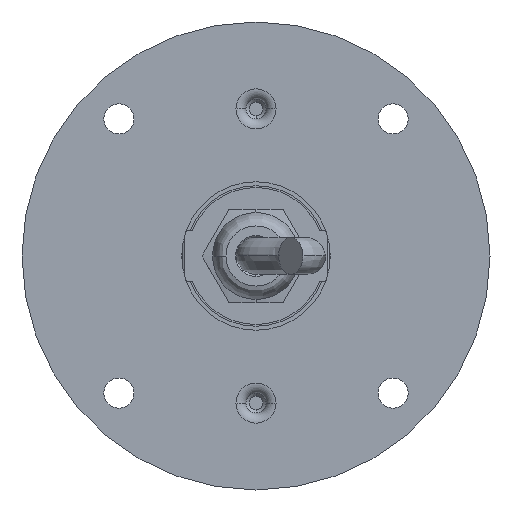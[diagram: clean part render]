
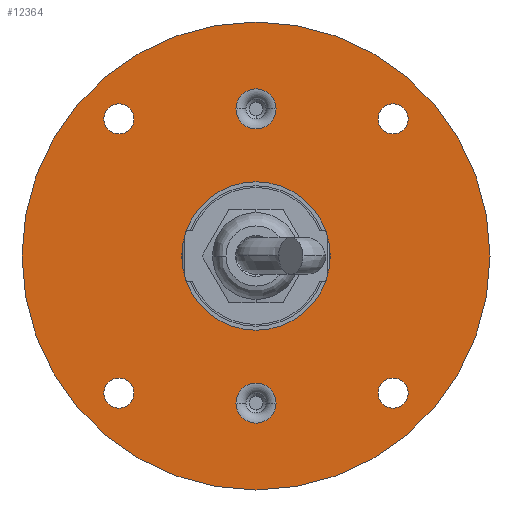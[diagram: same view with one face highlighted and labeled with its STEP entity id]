
A CAD part, front view. The second image highlights one B-rep face of the part: STEP entity #12364.
In plain terms, the highlighted planar face has unit normal (0, -1, 0) as drawn and (0, 0, -1) by its records, which use the part's own axes.
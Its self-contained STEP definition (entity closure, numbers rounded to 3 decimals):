
#11839=CARTESIAN_POINT('',(0.,0.,0.));
#11840=DIRECTION('',(0.,0.,-1.));
#11841=DIRECTION('',(1.,0.,0.));
#11842=AXIS2_PLACEMENT_3D('',#11839,#11840,#11841);
#11844=CARTESIAN_POINT('',(0.,0.,0.));
#11845=DIRECTION('',(0.,0.,-1.));
#11846=DIRECTION('',(-1.,0.,0.));
#11847=AXIS2_PLACEMENT_3D('',#11844,#11845,#11846);
#11849=CARTESIAN_POINT('',(-20.506,20.506,0.));
#11850=DIRECTION('',(0.,0.,1.));
#11851=DIRECTION('',(1.,0.,0.));
#11852=AXIS2_PLACEMENT_3D('',#11849,#11850,#11851);
#11854=CARTESIAN_POINT('',(-20.506,20.506,0.));
#11855=DIRECTION('',(0.,0.,1.));
#11856=DIRECTION('',(-1.,0.,0.));
#11857=AXIS2_PLACEMENT_3D('',#11854,#11855,#11856);
#11859=CARTESIAN_POINT('',(20.506,20.506,0.));
#11860=DIRECTION('',(0.,0.,1.));
#11861=DIRECTION('',(1.,0.,0.));
#11862=AXIS2_PLACEMENT_3D('',#11859,#11860,#11861);
#11864=CARTESIAN_POINT('',(20.506,20.506,0.));
#11865=DIRECTION('',(0.,0.,1.));
#11866=DIRECTION('',(-1.,0.,0.));
#11867=AXIS2_PLACEMENT_3D('',#11864,#11865,#11866);
#11869=CARTESIAN_POINT('',(-20.506,-20.506,0.));
#11870=DIRECTION('',(0.,0.,1.));
#11871=DIRECTION('',(1.,0.,0.));
#11872=AXIS2_PLACEMENT_3D('',#11869,#11870,#11871);
#11874=CARTESIAN_POINT('',(-20.506,-20.506,0.));
#11875=DIRECTION('',(0.,0.,1.));
#11876=DIRECTION('',(-1.,0.,0.));
#11877=AXIS2_PLACEMENT_3D('',#11874,#11875,#11876);
#11879=CARTESIAN_POINT('',(20.506,-20.506,0.));
#11880=DIRECTION('',(0.,0.,1.));
#11881=DIRECTION('',(1.,0.,0.));
#11882=AXIS2_PLACEMENT_3D('',#11879,#11880,#11881);
#11884=CARTESIAN_POINT('',(20.506,-20.506,0.));
#11885=DIRECTION('',(0.,0.,1.));
#11886=DIRECTION('',(-1.,0.,0.));
#11887=AXIS2_PLACEMENT_3D('',#11884,#11885,#11886);
#11889=CARTESIAN_POINT('',(0.,0.,0.));
#11890=DIRECTION('',(0.,0.,1.));
#11891=DIRECTION('',(1.,0.,0.));
#11892=AXIS2_PLACEMENT_3D('',#11889,#11890,#11891);
#11894=CARTESIAN_POINT('',(0.,0.,0.));
#11895=DIRECTION('',(0.,0.,1.));
#11896=DIRECTION('',(-1.,0.,0.));
#11897=AXIS2_PLACEMENT_3D('',#11894,#11895,#11896);
#12101=CARTESIAN_POINT('',(0.,22.,0.));
#12102=DIRECTION('',(0.,0.,-1.));
#12103=DIRECTION('',(1.,0.,0.));
#12104=AXIS2_PLACEMENT_3D('',#12101,#12102,#12103);
#12106=CARTESIAN_POINT('',(0.,22.,0.));
#12107=DIRECTION('',(0.,0.,-1.));
#12108=DIRECTION('',(-1.,0.,0.));
#12109=AXIS2_PLACEMENT_3D('',#12106,#12107,#12108);
#12205=CARTESIAN_POINT('',(0.,-22.,0.));
#12206=DIRECTION('',(0.,0.,-1.));
#12207=DIRECTION('',(-1.,0.,0.));
#12208=AXIS2_PLACEMENT_3D('',#12205,#12206,#12207);
#12210=CARTESIAN_POINT('',(0.,-22.,0.));
#12211=DIRECTION('',(0.,0.,-1.));
#12212=DIRECTION('',(1.,0.,0.));
#12213=AXIS2_PLACEMENT_3D('',#12210,#12211,#12212);
#12215=CARTESIAN_POINT('',(35.,0.,0.));
#12216=CARTESIAN_POINT('',(-35.,0.,0.));
#12217=VERTEX_POINT('',#12215);
#12218=VERTEX_POINT('',#12216);
#12219=CARTESIAN_POINT('',(-18.256,20.506,0.));
#12220=CARTESIAN_POINT('',(-22.756,20.506,0.));
#12221=VERTEX_POINT('',#12219);
#12222=VERTEX_POINT('',#12220);
#12223=CARTESIAN_POINT('',(22.756,20.506,0.));
#12224=CARTESIAN_POINT('',(18.256,20.506,0.));
#12225=VERTEX_POINT('',#12223);
#12226=VERTEX_POINT('',#12224);
#12227=CARTESIAN_POINT('',(-18.256,-20.506,0.));
#12228=CARTESIAN_POINT('',(-22.756,-20.506,0.));
#12229=VERTEX_POINT('',#12227);
#12230=VERTEX_POINT('',#12228);
#12231=CARTESIAN_POINT('',(22.756,-20.506,0.));
#12232=CARTESIAN_POINT('',(18.256,-20.506,0.));
#12233=VERTEX_POINT('',#12231);
#12234=VERTEX_POINT('',#12232);
#12235=CARTESIAN_POINT('',(11.1,0.,0.));
#12236=CARTESIAN_POINT('',(-11.1,0.,0.));
#12237=VERTEX_POINT('',#12235);
#12238=VERTEX_POINT('',#12236);
#12263=CARTESIAN_POINT('',(-3.,22.,0.));
#12265=VERTEX_POINT('',#12263);
#12269=CARTESIAN_POINT('',(3.,22.,0.));
#12271=VERTEX_POINT('',#12269);
#12287=CARTESIAN_POINT('',(3.,-22.,0.));
#12289=VERTEX_POINT('',#12287);
#12293=CARTESIAN_POINT('',(-3.,-22.,0.));
#12295=VERTEX_POINT('',#12293);
#12311=CARTESIAN_POINT('',(0.,0.,0.));
#12312=DIRECTION('',(0.,0.,1.));
#12313=DIRECTION('',(1.,0.,0.));
#12314=AXIS2_PLACEMENT_3D('',#12311,#12312,#12313);
#12315=PLANE('',#12314);
#12317=ORIENTED_EDGE('',*,*,#12316,.F.);
#12319=ORIENTED_EDGE('',*,*,#12318,.F.);
#12320=EDGE_LOOP('',(#12317,#12319));
#12321=FACE_OUTER_BOUND('',#12320,.F.);
#12323=ORIENTED_EDGE('',*,*,#12322,.F.);
#12325=ORIENTED_EDGE('',*,*,#12324,.F.);
#12326=EDGE_LOOP('',(#12323,#12325));
#12327=FACE_BOUND('',#12326,.F.);
#12329=ORIENTED_EDGE('',*,*,#12328,.F.);
#12331=ORIENTED_EDGE('',*,*,#12330,.F.);
#12332=EDGE_LOOP('',(#12329,#12331));
#12333=FACE_BOUND('',#12332,.F.);
#12335=ORIENTED_EDGE('',*,*,#12334,.F.);
#12337=ORIENTED_EDGE('',*,*,#12336,.F.);
#12338=EDGE_LOOP('',(#12335,#12337));
#12339=FACE_BOUND('',#12338,.F.);
#12341=ORIENTED_EDGE('',*,*,#12340,.F.);
#12343=ORIENTED_EDGE('',*,*,#12342,.F.);
#12344=EDGE_LOOP('',(#12341,#12343));
#12345=FACE_BOUND('',#12344,.F.);
#12347=ORIENTED_EDGE('',*,*,#12346,.F.);
#12349=ORIENTED_EDGE('',*,*,#12348,.F.);
#12350=EDGE_LOOP('',(#12347,#12349));
#12351=FACE_BOUND('',#12350,.F.);
#12353=ORIENTED_EDGE('',*,*,#12352,.T.);
#12355=ORIENTED_EDGE('',*,*,#12354,.T.);
#12356=EDGE_LOOP('',(#12353,#12355));
#12357=FACE_BOUND('',#12356,.F.);
#12359=ORIENTED_EDGE('',*,*,#12358,.T.);
#12361=ORIENTED_EDGE('',*,*,#12360,.T.);
#12362=EDGE_LOOP('',(#12359,#12361));
#12363=FACE_BOUND('',#12362,.F.);
#12364=ADVANCED_FACE('',(#12321,#12327,#12333,#12339,#12345,#12351,#12357,
#12363),#12315,.F.);
#11843=CIRCLE('',#11842,35.);
#11848=CIRCLE('',#11847,35.);
#11853=CIRCLE('',#11852,2.25);
#11858=CIRCLE('',#11857,2.25);
#11863=CIRCLE('',#11862,2.25);
#11868=CIRCLE('',#11867,2.25);
#11873=CIRCLE('',#11872,2.25);
#11878=CIRCLE('',#11877,2.25);
#11883=CIRCLE('',#11882,2.25);
#11888=CIRCLE('',#11887,2.25);
#11893=CIRCLE('',#11892,11.1);
#11898=CIRCLE('',#11897,11.1);
#12105=CIRCLE('',#12104,3.);
#12110=CIRCLE('',#12109,3.);
#12209=CIRCLE('',#12208,3.);
#12214=CIRCLE('',#12213,3.);
#12316=EDGE_CURVE('',#12217,#12218,#11843,.T.);
#12318=EDGE_CURVE('',#12218,#12217,#11848,.T.);
#12322=EDGE_CURVE('',#12221,#12222,#11853,.T.);
#12324=EDGE_CURVE('',#12222,#12221,#11858,.T.);
#12328=EDGE_CURVE('',#12225,#12226,#11863,.T.);
#12330=EDGE_CURVE('',#12226,#12225,#11868,.T.);
#12334=EDGE_CURVE('',#12229,#12230,#11873,.T.);
#12336=EDGE_CURVE('',#12230,#12229,#11878,.T.);
#12340=EDGE_CURVE('',#12233,#12234,#11883,.T.);
#12342=EDGE_CURVE('',#12234,#12233,#11888,.T.);
#12346=EDGE_CURVE('',#12237,#12238,#11893,.T.);
#12348=EDGE_CURVE('',#12238,#12237,#11898,.T.);
#12352=EDGE_CURVE('',#12265,#12271,#12110,.T.);
#12354=EDGE_CURVE('',#12271,#12265,#12105,.T.);
#12358=EDGE_CURVE('',#12289,#12295,#12214,.T.);
#12360=EDGE_CURVE('',#12295,#12289,#12209,.T.);
